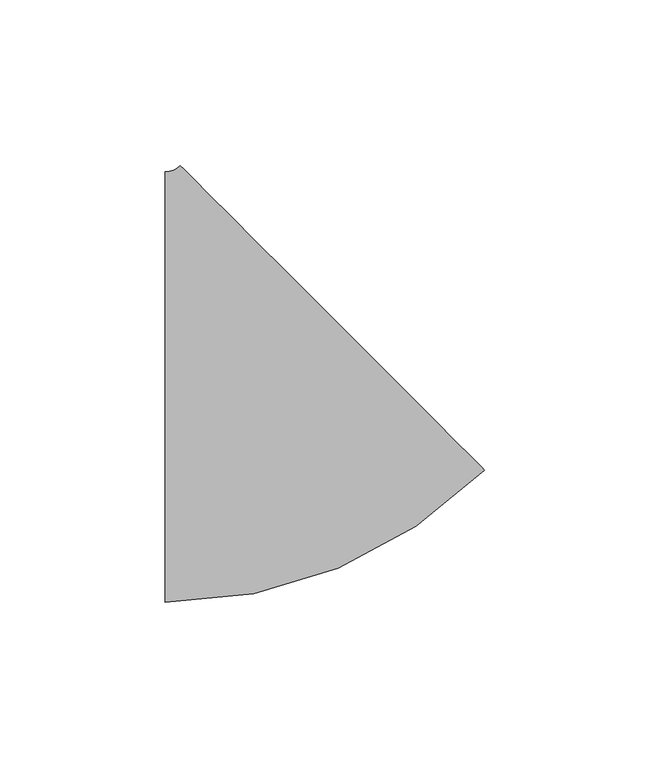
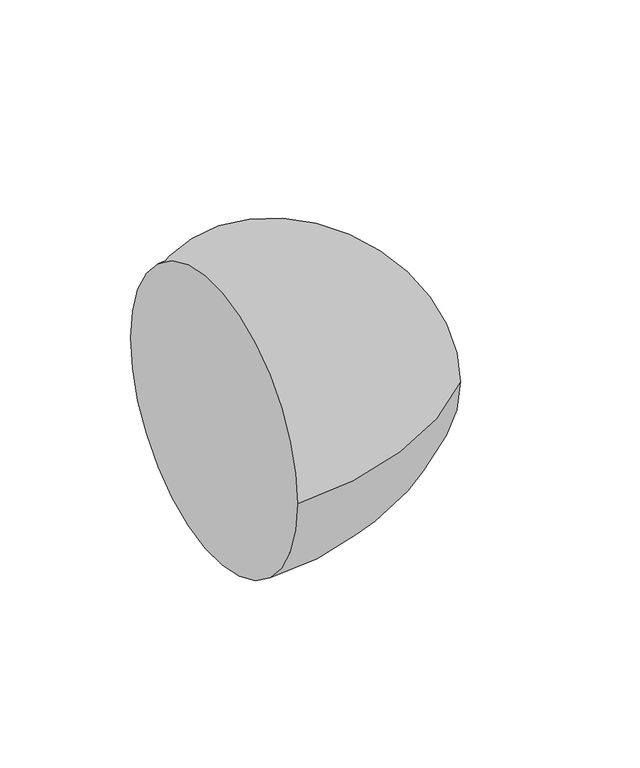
"""IFC4 building model written with IfcOpenShell, lengths in millimetres: pipe fitting geometry, M_Codo - Genérico : Estándar."""

from ifc_helpers import new_model, si_unit, point, frame, origin, place, context, project, spatial, circle_curve, ellipse_curve, trimmed, source, transform, mapped, element, save
from ifc_brep_helpers import plane_surface, revolved_surface, advanced_brep


def pipe_fitting_b994c117(model_context):
    return source(origin(), model_context, "Body", "AdvancedBrep", [
        advanced_brep(
        [(-29.5886481, -65.0875, 0.0), (-29.5886481, 65.0875, 0.0), (66.9451067, -25.1042516, 0.0), (-25.0987061, 66.947186, 0.0)],
        [
            (0, 1, circle_curve(frame((-29.5886481, 0.0, 0.0), z_axis=(-1.0, 0.0, 0.0), x_axis=(0.0, 1.0, 0.0)), 65.0875)),
            (1, 0, circle_curve(frame((-29.5886481, 0.0, 0.0), z_axis=(-1.0, 0.0, 0.0), x_axis=(0.0, 1.0, 0.0)), 65.0875)),
            (2, 3, circle_curve(frame((20.9232003, 20.9214672, 0.0), z_axis=(0.7071360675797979, 0.7070774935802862, 0.0), x_axis=(-0.7070774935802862, 0.7071360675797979, 0.0)), 65.0875)),
            (3, 2, circle_curve(frame((20.9232003, 20.9214672, 0.0), z_axis=(0.7071360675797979, 0.7070774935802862, 0.0), x_axis=(-0.7070774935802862, 0.7071360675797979, 0.0)), 65.0875)),
            (3, 1, circle_curve(frame((-29.5886481, 71.4375, 0.0), z_axis=(0.0, 0.0, -1.0), x_axis=(0.0, -1.0, 0.0)), 6.35)),
            (0, 2, circle_curve(frame((-29.5886481, 71.4375, 0.0), z_axis=(0.0, 0.0, 1.0), x_axis=(0.0, -1.0, 0.0)), 136.525)),
        ],
        [
            plane_surface(frame((-29.5886481, 0.0, 0.0), z_axis=(-1.0, 0.0, 0.0), x_axis=(0.0, 0.0, 1.0))),
            plane_surface(frame((20.9232003, 20.9214672, 0.0), z_axis=(0.707136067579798, 0.7070774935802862, 0.0), x_axis=(0.0, 0.0, 1.0))),
            revolved_surface(trimmed(ellipse_curve(frame((-29.5886481, 0.0, 0.0), z_axis=(-1.0, 0.0, 0.0), x_axis=(0.0, 1.0, 0.0)), 65.0875, 65.0875), [point((-29.5886481, -65.0875, 0.0))], [point((-29.5886481, 65.0875, 0.0))], True, "CARTESIAN"), (-29.5886481, 71.4375, 0.0), (0.0, 0.0, 1.0)),
            revolved_surface(trimmed(ellipse_curve(frame((-29.5886481, 0.0, 0.0), z_axis=(-1.0, 0.0, 0.0), x_axis=(0.0, 1.0, 0.0)), 65.0875, 65.0875), [point((-29.5886481, 65.0875, 0.0))], [point((-29.5886481, -65.0875, 0.0))], True, "CARTESIAN"), (-29.5886481, 71.4375, 0.0), (0.0, 0.0, 1.0)),
        ],
        [
            (0, [[1, 2]]),
            (1, [[3, 4]]),
            (2, [[5, -1, 6, -4]]),
            (3, [[-6, -2, -5, -3]]),
        ],
    ),
    ])


if __name__ == "__main__":
    model = new_model("IFC4")
    model_context = context("Model", 3, world=origin())
    ifc_project = project(units=[si_unit("LENGTHUNIT", "METRE", prefix="MILLI")], contexts=[model_context])
    site = spatial("IfcSite", under=ifc_project)
    building = spatial("IfcBuilding", under=site)
    placement = place(None, origin())
    pipe_fitting_shape = pipe_fitting_b994c117(model_context)
    element("IfcPipeFitting", 1, ObjectType="M_Codo - Genérico : Estándar", at=placement, inside=building, context=model_context, shape_type="MappedRepresentation", body=[
        mapped(pipe_fitting_shape, transform((0.0, 0.0, 0.0), x_axis=(1.0, 0.0, 0.0), y_axis=(0.0, 1.0, 0.0), z_axis=(0.0, 0.0, 1.0))),
    ])
    save(model, "model.ifc")
